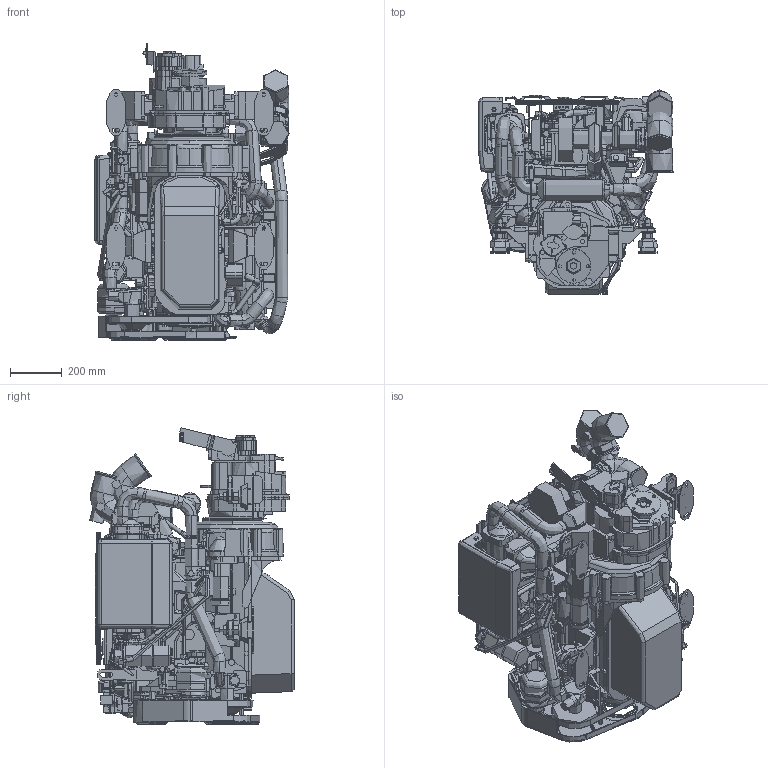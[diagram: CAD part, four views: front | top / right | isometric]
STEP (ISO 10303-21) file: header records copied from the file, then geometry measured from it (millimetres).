
FILE_DESCRIPTION((''),'2;1');
FILE_NAME('4LV150_KMH50A_ASM','2017-09-05T',('ib46307'),(''),'PRO/ENGINEER BY PARAMETRIC TECHNOLOGY CORPORATION, 2015360','PRO/ENGINEER BY PARAMETRIC TECHNOLOGY CORPORATION, 2015360','');
FILE_SCHEMA(('CONFIG_CONTROL_DESIGN'));
Products named in the file (70): MIXING-ELBOW-TYPE-3_1; MIXING-ELBOW-TYPE-3_ASM; MIXING-ELBOW-TYPE-2_1; MIXING-ELBOW-TYPE-2_2; MIXING-ELBOW-TYPE-2_ASM; MIXING-ELBOW-TYPE-1_2; MIXING-ELBOW-TYPE-1_1; MIXING-ELBOW-TYPE-1_ASM; MIXING-ELBOW_ASM; 4LV150_049; 4LV150_048; 4LV150_047; 4LV150_045; 4LV150_044; 4LV150_043; 4LV150_041; 4LV150_014; 4LV150_010; 4LV150_009; 4LV150_046; 4LV150_008; 4LV150_001; 4LV150_034; 4LV150_033; 4LV150_032; 4LV150_031; 4LV150_030; 4LV150_029; 4LV150_028; 4LV150_027; 4LV150_026; 4LV150_025; 4LV150_024; 4LV150_023; 4LV150_022; 4LV150_020; 4LV150_019; 4LV150_018; 4LV150_017; 4LV150_016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
Assembly tree (69 placements, depth 5):
  4LV150_KMH50A_ASM
    4LV150_ENGINE_GEARBOX_ASM
      MIXING-ELBOW_ASM
        MIXING-ELBOW-TYPE-3_ASM
          MIXING-ELBOW-TYPE-3_1
        MIXING-ELBOW-TYPE-2_ASM
          MIXING-ELBOW-TYPE-2_1
          MIXING-ELBOW-TYPE-2_2
        MIXING-ELBOW-TYPE-1_ASM
          MIXING-ELBOW-TYPE-1_2
          MIXING-ELBOW-TYPE-1_1
      BASE_ASM
        4LV150_049
        4LV150_048
        4LV150_047
        4LV150_045
        4LV150_044
        4LV150_043
        4LV150_041
        4LV150_014
        4LV150_010
        4LV150_009
        4LV150_046
        4LV150_008
        4LV150_001
        4LV150_034
        4LV150_033
        4LV150_032
        4LV150_031
        4LV150_030
        4LV150_029
        4LV150_028
        4LV150_027
        4LV150_026
        4LV150_025
        4LV150_024
        4LV150_023
        4LV150_022
        4LV150_020
        4LV150_019
        4LV150_018
        4LV150_017
        4LV150_016
        4LV150_015
        4LV150_013
        4LV150_012
        4LV150_011
        4LV150_035
        4LV150_038
        4LV150_042
        4LV150_007
        4LV150_006
        4LV150_005
        4LV150_004
        4LV150_003
        4LV150_002
        4LV150_040
        4LV150_037
        4LV150_021
        4LV150_036
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Bounding box: 756.98 x 795.49 x 1151.07 mm (x, y, z)
Topology: 60 solids, 65 shells, 8913 faces, 24310 edges, 15748 vertices
Faces by surface type: cylinder 3755, plane 3689, torus 736, bspline 393, cone 147, sphere 108, extrusion 79, revolution 6
Full cylindrical faces by diameter (mm): 39 x1
Entity records: 325965 total; most frequent: CARTESIAN_POINT 98469, ORIENTED_EDGE 48408, DIRECTION 47342, EDGE_CURVE 24207, AXIS2_PLACEMENT_3D 17547, VERTEX_POINT 15748, VECTOR 12242, LINE 12163
